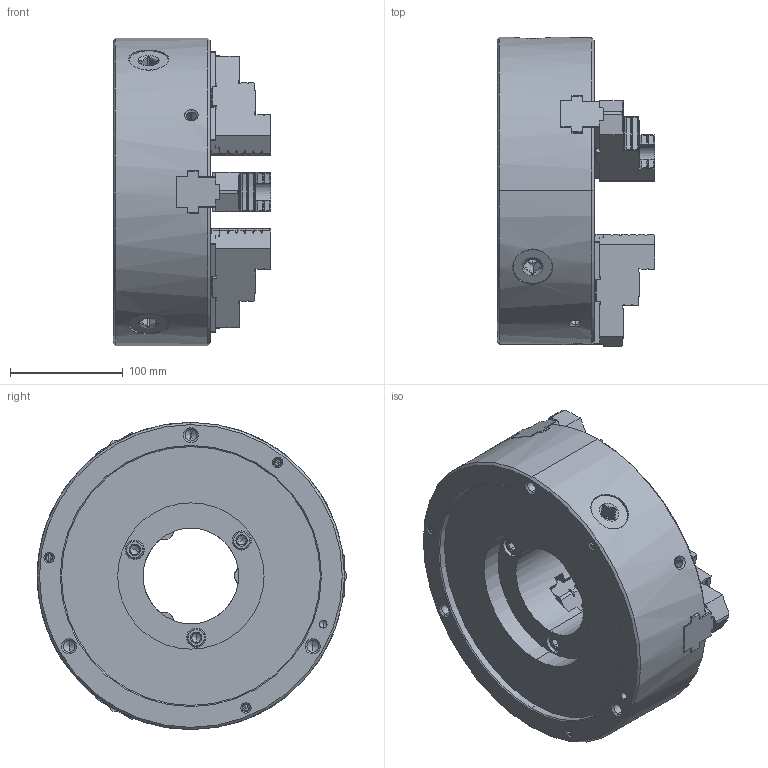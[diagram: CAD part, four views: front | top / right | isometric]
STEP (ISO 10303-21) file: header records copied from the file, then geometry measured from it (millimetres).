
FILE_DESCRIPTION (( 'STEP AP214' ), '1' );
FILE_NAME ('JN10T 61S2099218 ASSY.STEP', '2023-05-17T06:37:09', ( '' ), ( '' ), 'SwSTEP 2.0', 'SolidWorks 2020', '' );
FILE_SCHEMA (( 'AUTOMOTIVE_DESIGN' ));
Length unit declared in the file: millimetre
Products named in the file (1): JN10T 61S2099218 ASSY
Bounding box: 140 x 275 x 273 mm (x, y, z)
Volume: 4445176.5 mm3; surface area: 329894.2 mm2
Topology: 1 solids, 12 shells, 1586 faces, 4530 edges, 2920 vertices
Faces by surface type: plane 876, cylinder 250, cone 217, bspline 172, torus 67, sphere 4
Entity records: 76980 total; most frequent: CARTESIAN_POINT 20126, ORIENTED_EDGE 8974, DIRECTION 7047, EDGE_CURVE 4487, VERTEX_POINT 2917, LINE 2889, VECTOR 2889, AXIS2_PLACEMENT_3D 2079
